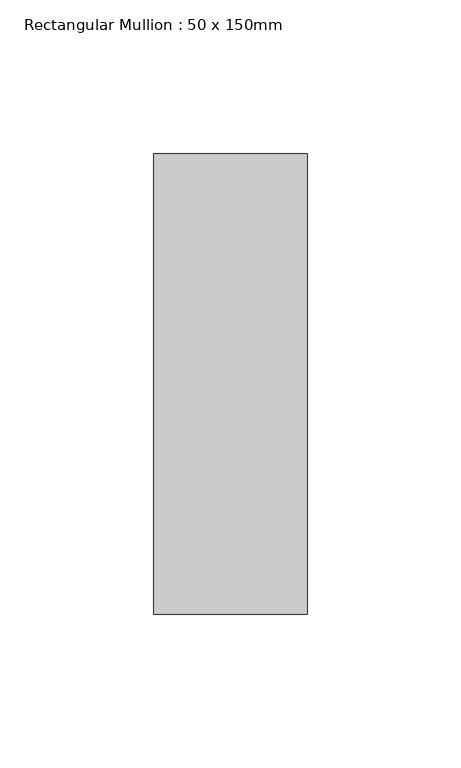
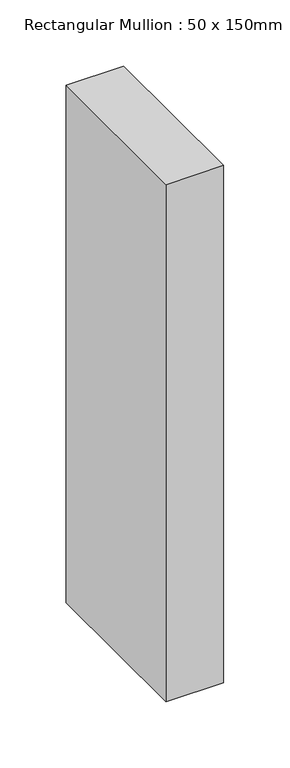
"""IFC4 building model written with IfcOpenShell, lengths in millimetres: member geometry, Rectangular Mullion : 50 x 150mm."""

from ifc_helpers import new_model, si_unit, frame, origin, place, context, project, spatial, polyline, outline, extrude, source, transform, mapped, element, save


def rectangular_mullion_50_x_150mm_05a43cda(model_context):
    return source(origin(), model_context, "Body", "SweptSolid", [
        extrude(outline(polyline([(25.0, 75.0), (25.0, -75.0), (-25.0, -75.0), (-25.0, 75.0), (25.0, 75.0)])), frame((0.0, 0.0, -475.0), z_axis=(0.0, 0.0, 1.0), x_axis=(1.0, 0.0, 0.0)), (0.0, 0.0, 1.0), 475.0),
    ])


if __name__ == "__main__":
    model = new_model("IFC4")
    model_context = context("Model", 3, world=origin())
    ifc_project = project(units=[si_unit("LENGTHUNIT", "METRE", prefix="MILLI")], contexts=[model_context])
    site = spatial("IfcSite", under=ifc_project)
    building = spatial("IfcBuilding", under=site)
    placement = place(None, origin())
    rectangular_mullion_50_x_150mm_shape = rectangular_mullion_50_x_150mm_05a43cda(model_context)
    element("IfcMember", 1, ObjectType="Rectangular Mullion : 50 x 150mm", at=placement, inside=building, context=model_context, shape_type="MappedRepresentation", body=[
        mapped(rectangular_mullion_50_x_150mm_shape, transform((0.0, 0.0, 0.0), x_axis=(1.0, 0.0, 0.0), y_axis=(0.0, 1.0, 0.0), z_axis=(0.0, 0.0, 1.0))),
    ])
    save(model, "model.ifc")
